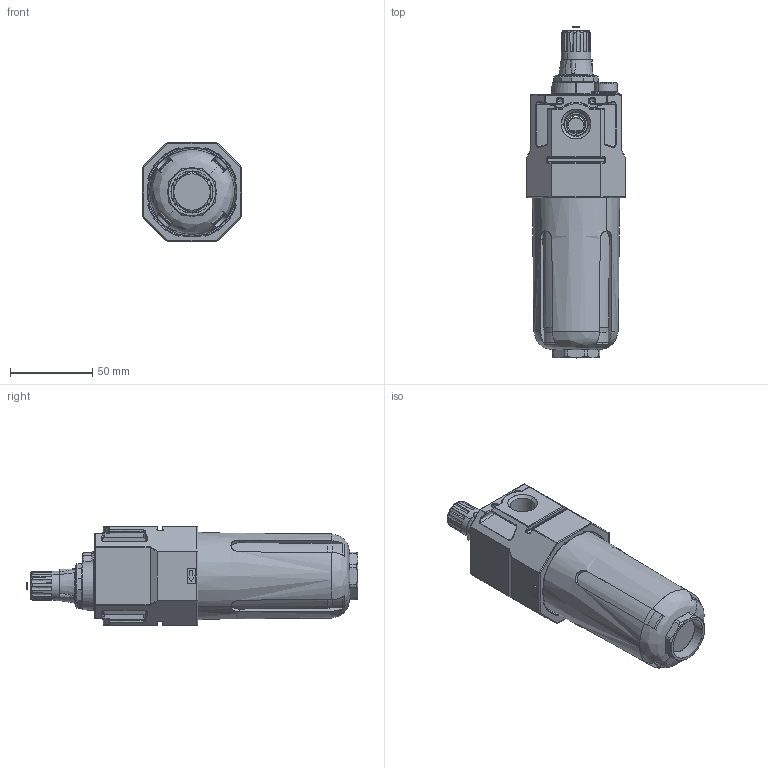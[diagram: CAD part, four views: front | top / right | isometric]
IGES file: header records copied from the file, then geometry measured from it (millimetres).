
Start section: SolidWorks IGES file using analytic representation for surfaces
Bounding box: 60 x 201.25 x 60 mm (x, y, z)
Surface area: 108351 mm2 (no closed solid volume)
Topology: 0 solids, 0 shells, 1715 faces, 47133 edges, 56018 vertices
Faces by surface type: bspline 867, revolution 848
